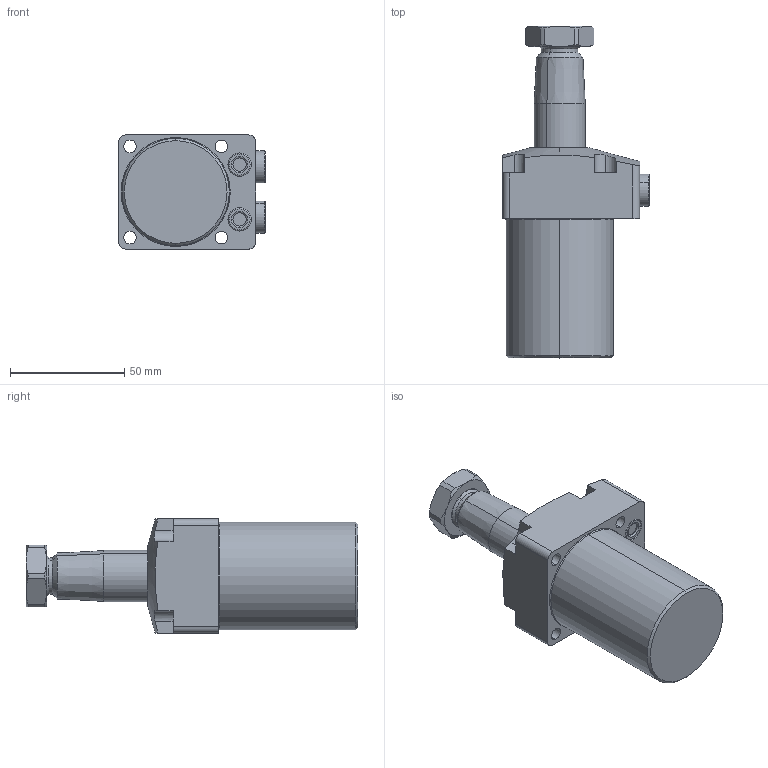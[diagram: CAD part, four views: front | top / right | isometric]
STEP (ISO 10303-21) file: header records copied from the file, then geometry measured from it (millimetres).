
FILE_DESCRIPTION(/* description */ (''),/* implementation_level */ '2;1');
FILE_NAME(/* name */ 'TRC04-RN60.stp',/* time_stamp */ '2025-01-04T08:20:47+08:00',/* author */ (''),/* organization */ (''),/* preprocessor_version */ 'ST-DEVELOPER v16.7',/* originating_system */ 'SIEMENS PLM Software NX 12.0',/* authorisation */ '');
FILE_SCHEMA (('AUTOMOTIVE_DESIGN { 1 0 10303 214 3 1 1 1 }'));
Length unit declared in the file: millimetre
Products named in the file (5): TRC04-RN60-03; TRC04-RN60-02; TRC04-RN60-01; TRC04-RN60-04; CTU04-RN60_step
Assembly tree (5 placements, depth 2):
  CTU04-RN60_step
    TRC04-RN60-04  x2
    TRC04-RN60-01
    TRC04-RN60-02
    TRC04-RN60-03
Bounding box: 64.3 x 145.4 x 50 mm (x, y, z)
Volume: 201715 mm3; surface area: 32356 mm2
Topology: 5 solids, 7 shells, 203 faces, 465 edges, 288 vertices
Faces by surface type: cylinder 73, plane 67, cone 40, torus 22, sphere 1
Entity records: 5436 total; most frequent: CARTESIAN_POINT 1112, DIRECTION 938, ORIENTED_EDGE 836, EDGE_CURVE 418, AXIS2_PLACEMENT_3D 386, VERTEX_POINT 260, EDGE_LOOP 206, CIRCLE 199
